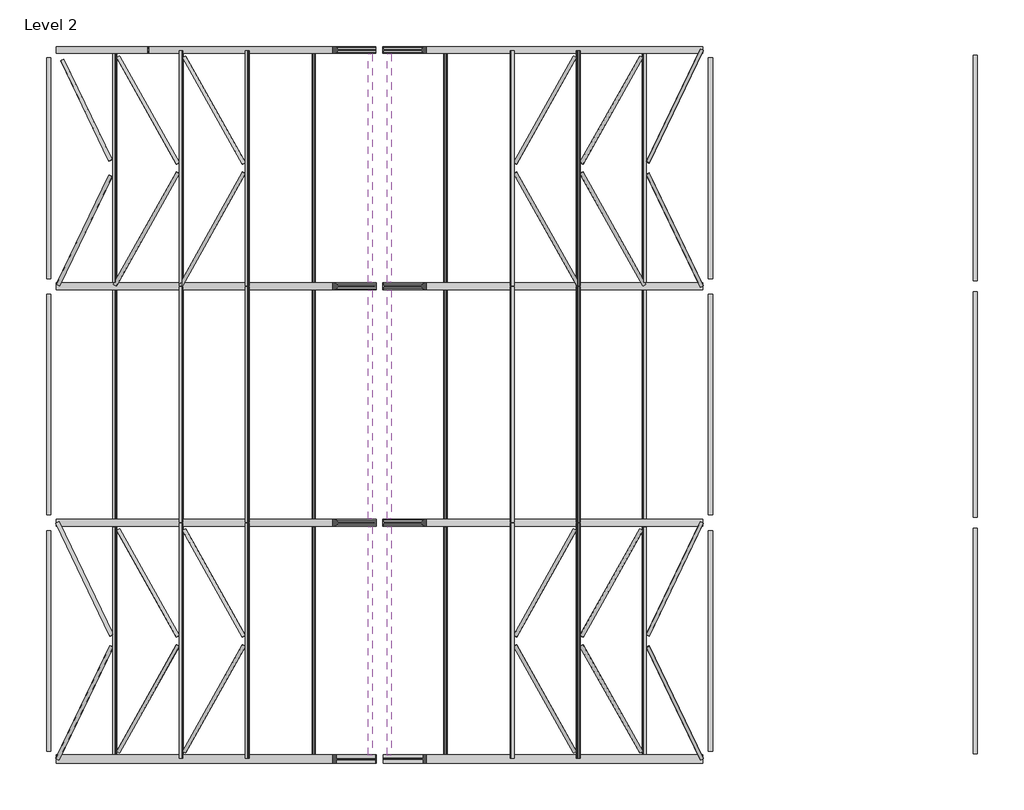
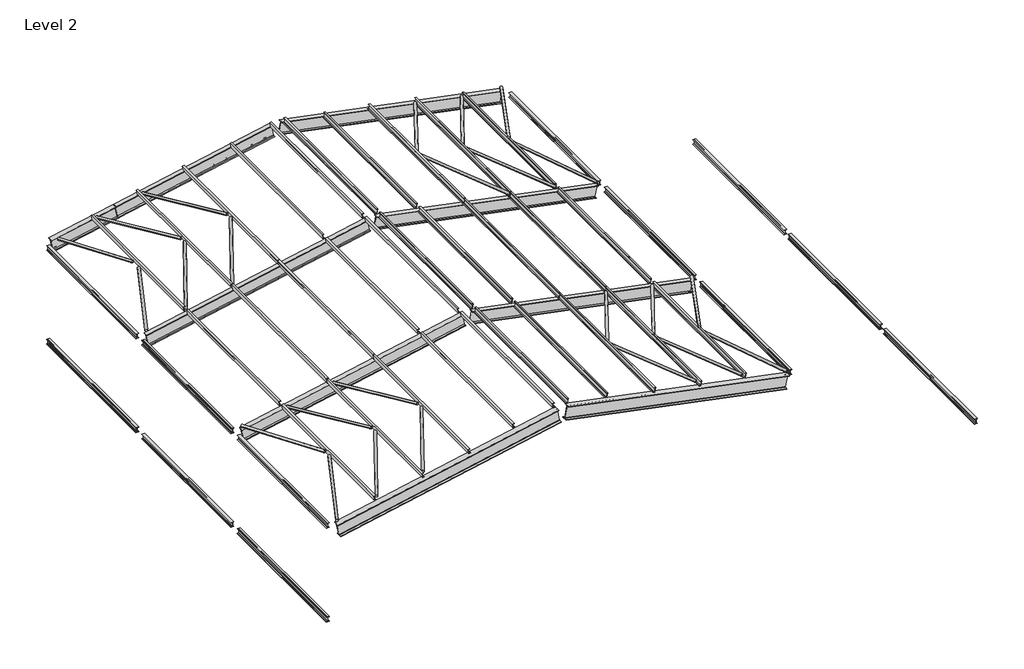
# One storey: 51 beams, 24 members.
"""IFC4 building model written with IfcOpenShell, lengths in millimetres."""

from ifc_helpers import new_model, si_unit, origin, place, context, project, spatial, transform, mapped, element, save
from components import c_channel_c6x13_b2b36362, c_channel_c6x13_1b19ddb2, c_channel_c6x13_4940aca9, c_channel_c6x13_5322debb, c_channel_c6x13_f7c1ed2d, c_channel_c6x13_ee0d21b7, c_channel_c6x13_c897e373, c_channel_c6x13_45790efd, c_channel_c6x13_01a53013, c_channel_c6x13_61d3db65, c_channel_c6x13_cbce994e, c_channel_c6x13_c106f19a, c_channel_c6x13_0d7380c4, c_channel_c6x13_3f903bd1, c_channel_c6x13_e813588d, c_channel_c6x13_805d20f2, c_channel_c6x13_115fb7c3, c_channel_c6x13_e31282b3, c_channel_c6x13_2b48402f, c_channel_c6x13_7d914799, s_shapes_s6x17_25_a5c0bde4, s_shapes_s6x17_25_87abacaf, s_american_standard_s15x50_c199a0a1, s_american_standard_s15x50_5fe9eba2, s_american_standard_s15x50_5335cbeb, w_shapes_w16x50_7702e007, hss_round_hss3x_250_05f57986, hss_round_hss3x_250_fa23e0ce, hss_round_hss3x_250_f9a469b0, hss_round_hss3x_250_3620c812, hss_round_hss3x_250_1ae0081d, hss_round_hss3x_250_a893225f, hss_round_hss3x_250_b1a33e7d, hss_round_hss3x_250_d19ba9f0, hss_round_hss3x_250_69b59b5c, hss_round_hss3x_250_7c8beab8, hss_round_hss3x_250_0a7b9d6e, hss_round_hss3x_250_61c3d1cc, hss_round_hss3x_250_120c92ce, hss_round_hss3x_250_aa3f84e9, hss_round_hss3x_250_4fada55d, hss_round_hss3x_250_6881349c, hss_round_hss3x_250_1bf88428, hss_round_hss3x_250_9fa1828e

model = new_model("IFC4")

# Units and contexts
model_context = context("Model", 3, world=origin())
ifc_project = project(units=[si_unit("LENGTHUNIT", "METRE", prefix="MILLI")], contexts=[model_context])

# Site, building, storey
site = spatial("IfcSite", under=ifc_project)
building = spatial("IfcBuilding", under=site)
storey = spatial("IfcBuildingStorey", under=building, Name="Level 2", Elevation=3000.0)

# Beams
placement = place(None, origin())
c_channel_c6x13_shape = c_channel_c6x13_b2b36362(model_context)
element("IfcBeam", 1, ObjectType="C-Channel : C6X13", at=placement, inside=storey, context=model_context, shape_type="MappedRepresentation", body=[
    mapped(c_channel_c6x13_shape, transform((-18696.7534386, 1156.2686326, 3352.0125928), x_axis=(0.0, 0.9999994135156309, 0.001083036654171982), y_axis=(-0.9805804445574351, 0.0002124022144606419, -0.19611717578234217), z_axis=(-0.19611729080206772, -0.00106200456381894, 0.9805798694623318))),
])
c_channel_c6x13_2_shape = c_channel_c6x13_1b19ddb2(model_context)
element("IfcBeam", 2, ObjectType="C-Channel : C6X13", at=placement, inside=storey, context=model_context, shape_type="MappedRepresentation", body=[
    mapped(c_channel_c6x13_2_shape, transform((-17296.7534347, 1156.4157159, 3636.9337446), x_axis=(0.0, 0.999999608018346, -0.0008854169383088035), y_axis=(-0.980580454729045, -0.00017364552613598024, -0.19611716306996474), z_axis=(-0.1961172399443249, 0.0008682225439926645, 0.9805800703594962))),
])
c_channel_c6x13_3_shape = c_channel_c6x13_4940aca9(model_context)
element("IfcBeam", 3, ObjectType="C-Channel : C6X13", at=placement, inside=storey, context=model_context, shape_type="MappedRepresentation", body=[
    mapped(c_channel_c6x13_3_shape, transform((-15896.7534368, 1156.3815919, 3915.7920398), x_axis=(0.0, 0.9999999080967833, -0.00042872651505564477), y_axis=(-0.9805804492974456, -8.408067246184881e-05, -0.19611724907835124), z_axis=(-0.1961172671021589, 0.00042040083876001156, 0.9805803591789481))),
])
c_channel_c6x13_4_shape = c_channel_c6x13_5322debb(model_context)
element("IfcBeam", 4, ObjectType="C-Channel : C6X13", at=placement, inside=storey, context=model_context, shape_type="MappedRepresentation", body=[
    mapped(c_channel_c6x13_4_shape, transform((-14496.7534386, 1156.2696281, 4192.0459018), x_axis=(0.0, 0.9999994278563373, 0.0010697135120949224), y_axis=(-0.9805804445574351, 0.00020978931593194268, -0.19611717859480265), z_axis=(-0.19611729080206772, -0.00104894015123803, 0.9805798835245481))),
])
c_channel_c6x13_5_shape = c_channel_c6x13_f7c1ed2d(model_context)
element("IfcBeam", 5, ObjectType="C-Channel : C6X13", at=placement, inside=storey, context=model_context, shape_type="MappedRepresentation", body=[
    mapped(c_channel_c6x13_5_shape, transform((-13296.7534362, 1156.3069058, 4433.2931752), x_axis=(0.0, 0.9999998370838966, 0.0005708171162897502), y_axis=(-0.9805804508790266, 0.00011194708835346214, -0.19611722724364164), z_axis=(-0.1961172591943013, -0.0005597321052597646, 0.9805802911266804))),
])
c_channel_c6x13_6_shape = c_channel_c6x13_ee0d21b7(model_context)
element("IfcBeam", 6, ObjectType="C-Channel : C6X13", at=placement, inside=storey, context=model_context, shape_type="MappedRepresentation", body=[
    mapped(c_channel_c6x13_6_shape, transform((-7466.8651635, 1156.2686326, 3352.0125928), x_axis=(0.0, 0.9999994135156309, 0.001083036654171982), y_axis=(-0.9805804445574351, -0.0002124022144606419, 0.19611717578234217), z_axis=(0.19611729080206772, -0.00106200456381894, 0.9805798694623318))),
])
c_channel_c6x13_7_shape = c_channel_c6x13_c897e373(model_context)
element("IfcBeam", 7, ObjectType="C-Channel : C6X13", at=placement, inside=storey, context=model_context, shape_type="MappedRepresentation", body=[
    mapped(c_channel_c6x13_7_shape, transform((-8866.8651673, 1156.4157159, 3636.9337446), x_axis=(0.0, 0.999999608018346, -0.0008854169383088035), y_axis=(-0.980580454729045, 0.00017364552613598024, 0.19611716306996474), z_axis=(0.1961172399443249, 0.0008682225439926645, 0.9805800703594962))),
])
c_channel_c6x13_8_shape = c_channel_c6x13_45790efd(model_context)
element("IfcBeam", 8, ObjectType="C-Channel : C6X13", at=placement, inside=storey, context=model_context, shape_type="MappedRepresentation", body=[
    mapped(c_channel_c6x13_8_shape, transform((-10266.8651635, 1156.3815919, 3915.7920394), x_axis=(0.0, 0.9999999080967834, -0.0004287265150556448), y_axis=(-0.9805804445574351, 8.408068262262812e-05, 0.19611727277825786), z_axis=(0.19611729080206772, 0.0004204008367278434, 0.9805803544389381))),
])
c_channel_c6x13_9_shape = c_channel_c6x13_01a53013(model_context)
element("IfcBeam", 9, ObjectType="C-Channel : C6X13", at=placement, inside=storey, context=model_context, shape_type="MappedRepresentation", body=[
    mapped(c_channel_c6x13_9_shape, transform((-11666.8651635, 1156.2696281, 4192.0459018), x_axis=(0.0, 0.9999994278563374, 0.0010697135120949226), y_axis=(-0.9805804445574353, -0.0002097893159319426, 0.19611717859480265), z_axis=(0.19611729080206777, -0.0010489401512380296, 0.9805798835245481))),
])
c_channel_c6x13_10_shape = c_channel_c6x13_61d3db65(model_context)
element("IfcBeam", 10, ObjectType="C-Channel : C6X13", at=placement, inside=storey, context=model_context, shape_type="MappedRepresentation", body=[
    mapped(c_channel_c6x13_10_shape, transform((-12866.8651635, 1156.3069058, 4433.2931747), x_axis=(0.0, 0.9999998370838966, 0.0005708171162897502), y_axis=(-0.9805804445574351, -0.0001119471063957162, 0.19611725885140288), z_axis=(0.19611729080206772, -0.000559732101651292, 0.98058028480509))),
])
c_channel_c6x13_11_shape = c_channel_c6x13_cbce994e(model_context)
element("IfcBeam", 11, ObjectType="C-Channel : C6X13", at=placement, inside=storey, context=model_context, shape_type="MappedRepresentation", body=[
    mapped(c_channel_c6x13_11_shape, transform((-18696.7534386, 6156.2686326, 3352.0125928), x_axis=(0.0, 0.9999994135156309, 0.001083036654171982), y_axis=(-0.9805804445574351, 0.0002124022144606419, -0.19611717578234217), z_axis=(-0.19611729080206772, -0.00106200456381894, 0.9805798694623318))),
])
c_channel_c6x13_12_shape = c_channel_c6x13_c106f19a(model_context)
element("IfcBeam", 12, ObjectType="C-Channel : C6X13", at=placement, inside=storey, context=model_context, shape_type="MappedRepresentation", body=[
    mapped(c_channel_c6x13_12_shape, transform((-17296.7534271, 6156.4157159, 3636.9337461), x_axis=(0.0, 0.9999996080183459, -0.0008854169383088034), y_axis=(-0.980580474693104, -0.00017364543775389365, -0.19611706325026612), z_axis=(-0.19611714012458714, 0.0008682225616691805, 0.9805800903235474))),
])
element("IfcBeam", 13, ObjectType="C-Channel : C6X13", at=placement, inside=storey, context=model_context, shape_type="MappedRepresentation", body=[
    mapped(c_channel_c6x13_3_shape, transform((-15896.7534368, 6156.3815919, 3915.7920398), x_axis=(0.0, 0.9999999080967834, -0.0004287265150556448), y_axis=(-0.9805804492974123, -8.408067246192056e-05, -0.19611724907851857), z_axis=(-0.19611726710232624, 0.0004204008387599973, 0.9805803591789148))),
])
c_channel_c6x13_13_shape = c_channel_c6x13_0d7380c4(model_context)
element("IfcBeam", 14, ObjectType="C-Channel : C6X13", at=placement, inside=storey, context=model_context, shape_type="MappedRepresentation", body=[
    mapped(c_channel_c6x13_13_shape, transform((-14496.7534386, 6156.2696281, 4192.0459018), x_axis=(0.0, 0.9999994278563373, 0.0010697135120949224), y_axis=(-0.9805804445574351, 0.00020978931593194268, -0.19611717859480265), z_axis=(-0.19611729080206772, -0.00104894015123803, 0.9805798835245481))),
])
element("IfcBeam", 15, ObjectType="C-Channel : C6X13", at=placement, inside=storey, context=model_context, shape_type="MappedRepresentation", body=[
    mapped(c_channel_c6x13_13_shape, transform((-14496.7534386, 11156.2696281, 4192.0459018), x_axis=(0.0, 0.9999994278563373, 0.0010697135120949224), y_axis=(-0.9805804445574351, 0.00020978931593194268, -0.19611717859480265), z_axis=(-0.19611729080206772, -0.00104894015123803, 0.9805798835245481))),
])
element("IfcBeam", 16, ObjectType="C-Channel : C6X13", at=placement, inside=storey, context=model_context, shape_type="MappedRepresentation", body=[
    mapped(c_channel_c6x13_5_shape, transform((-13296.7534338, 6156.3069058, 4433.2931756), x_axis=(0.0, 0.9999998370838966, 0.0005708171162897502), y_axis=(-0.9805804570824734, 0.00011194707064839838, -0.19611719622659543), z_axis=(-0.19611722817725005, -0.0005597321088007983, 0.9805802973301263))),
])
element("IfcBeam", 17, ObjectType="C-Channel : C6X13", at=placement, inside=storey, context=model_context, shape_type="MappedRepresentation", body=[
    mapped(c_channel_c6x13_5_shape, transform((-13296.7534362, 11156.3069058, 4433.2931752), x_axis=(0.0, 0.9999998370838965, 0.0005708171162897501), y_axis=(-0.9805804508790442, 0.0001119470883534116, -0.1961172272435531), z_axis=(-0.19611725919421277, -0.0005597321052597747, 0.9805802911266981))),
])
c_channel_c6x13_14_shape = c_channel_c6x13_3f903bd1(model_context)
element("IfcBeam", 18, ObjectType="C-Channel : C6X13", at=placement, inside=storey, context=model_context, shape_type="MappedRepresentation", body=[
    mapped(c_channel_c6x13_14_shape, transform((-7466.8651635, 6156.2686326, 3352.0125928), x_axis=(0.0, 0.9999994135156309, 0.001083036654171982), y_axis=(-0.9805804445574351, -0.0002124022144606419, 0.19611717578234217), z_axis=(0.19611729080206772, -0.00106200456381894, 0.9805798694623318))),
])
element("IfcBeam", 19, ObjectType="C-Channel : C6X13", at=placement, inside=storey, context=model_context, shape_type="MappedRepresentation", body=[
    mapped(c_channel_c6x13_14_shape, transform((-7466.8651635, 11156.2686326, 3352.0125928), x_axis=(0.0, 0.9999994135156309, 0.001083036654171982), y_axis=(-0.9805804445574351, -0.0002124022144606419, 0.19611717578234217), z_axis=(0.19611729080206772, -0.00106200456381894, 0.9805798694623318))),
])
c_channel_c6x13_15_shape = c_channel_c6x13_e813588d(model_context)
element("IfcBeam", 20, ObjectType="C-Channel : C6X13", at=placement, inside=storey, context=model_context, shape_type="MappedRepresentation", body=[
    mapped(c_channel_c6x13_15_shape, transform((-8866.8651749, 6156.4157159, 3636.9337461), x_axis=(0.0, 0.9999996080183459, -0.0008854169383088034), y_axis=(-0.980580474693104, 0.00017364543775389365, 0.19611706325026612), z_axis=(0.19611714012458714, 0.0008682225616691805, 0.9805800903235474))),
])
c_channel_c6x13_16_shape = c_channel_c6x13_805d20f2(model_context)
element("IfcBeam", 21, ObjectType="C-Channel : C6X13", at=placement, inside=storey, context=model_context, shape_type="MappedRepresentation", body=[
    mapped(c_channel_c6x13_16_shape, transform((-10266.8651662, 6156.3815919, 3915.7920399), x_axis=(0.0, 0.9999999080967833, -0.00042872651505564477), y_axis=(-0.9805804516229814, 8.40806674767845e-05, 0.19611723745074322), z_axis=(0.19611725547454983, 0.0004204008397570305, 0.9805803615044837))),
])
c_channel_c6x13_17_shape = c_channel_c6x13_115fb7c3(model_context)
element("IfcBeam", 22, ObjectType="C-Channel : C6X13", at=placement, inside=storey, context=model_context, shape_type="MappedRepresentation", body=[
    mapped(c_channel_c6x13_17_shape, transform((-11666.8651635, 6156.2696281, 4192.0459018), x_axis=(0.0, 0.9999994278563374, 0.0010697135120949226), y_axis=(-0.9805804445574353, -0.0002097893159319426, 0.19611717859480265), z_axis=(0.19611729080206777, -0.0010489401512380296, 0.9805798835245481))),
])
element("IfcBeam", 23, ObjectType="C-Channel : C6X13", at=placement, inside=storey, context=model_context, shape_type="MappedRepresentation", body=[
    mapped(c_channel_c6x13_17_shape, transform((-11666.8651635, 11156.2696281, 4192.0459018), x_axis=(0.0, 0.9999994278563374, 0.0010697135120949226), y_axis=(-0.9805804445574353, -0.00020978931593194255, 0.19611717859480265), z_axis=(0.19611729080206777, -0.0010489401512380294, 0.9805798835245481))),
])
element("IfcBeam", 24, ObjectType="C-Channel : C6X13", at=placement, inside=storey, context=model_context, shape_type="MappedRepresentation", body=[
    mapped(c_channel_c6x13_10_shape, transform((-12866.8651682, 6156.3069058, 4433.2931756), x_axis=(0.0, 0.9999998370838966, 0.0005708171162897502), y_axis=(-0.9805804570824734, -0.00011194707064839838, 0.19611719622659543), z_axis=(0.19611722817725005, -0.0005597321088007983, 0.9805802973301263))),
])
element("IfcBeam", 25, ObjectType="C-Channel : C6X13", at=placement, inside=storey, context=model_context, shape_type="MappedRepresentation", body=[
    mapped(c_channel_c6x13_10_shape, transform((-12866.8651659, 11156.3069058, 4433.2931752), x_axis=(0.0, 0.9999998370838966, 0.0005708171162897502), y_axis=(-0.9805804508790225, -0.00011194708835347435, 0.19611722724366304), z_axis=(0.1961172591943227, -0.0005597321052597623, 0.9805802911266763))),
])
element("IfcBeam", 26, ObjectType="C-Channel : C6X13", at=placement, inside=storey, context=model_context, shape_type="MappedRepresentation", body=[
    mapped(c_channel_c6x13_11_shape, transform((-18696.7534386, 11156.2686326, 3352.0125928), x_axis=(0.0, 0.9999994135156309, 0.001083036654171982), y_axis=(-0.9805804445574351, 0.0002124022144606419, -0.19611717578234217), z_axis=(-0.19611729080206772, -0.00106200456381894, 0.9805798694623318))),
])
c_channel_c6x13_18_shape = c_channel_c6x13_e31282b3(model_context)
element("IfcBeam", 27, ObjectType="C-Channel : C6X13", at=placement, inside=storey, context=model_context, shape_type="MappedRepresentation", body=[
    mapped(c_channel_c6x13_18_shape, transform((-17296.7534309, 11156.4157159, 3636.9337453), x_axis=(0.0, 0.999999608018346, -0.0008854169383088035), y_axis=(-0.9805804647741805, -0.00017364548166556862, -0.19611711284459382), z_axis=(-0.1961171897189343, 0.0008682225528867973, 0.9805800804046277))),
])
element("IfcBeam", 28, ObjectType="C-Channel : C6X13", at=placement, inside=storey, context=model_context, shape_type="MappedRepresentation", body=[
    mapped(c_channel_c6x13_3_shape, transform((-15896.7534368, 11156.3815919, 3915.7920398), x_axis=(0.0, 0.9999999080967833, -0.00042872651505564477), y_axis=(-0.9805804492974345, -8.408067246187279e-05, -0.19611724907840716), z_axis=(-0.19611726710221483, 0.00042040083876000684, 0.980580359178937))),
])
c_channel_c6x13_19_shape = c_channel_c6x13_2b48402f(model_context)
element("IfcBeam", 29, ObjectType="C-Channel : C6X13", at=placement, inside=storey, context=model_context, shape_type="MappedRepresentation", body=[
    mapped(c_channel_c6x13_19_shape, transform((-8866.8651712, 11156.4157159, 3636.9337453), x_axis=(0.0, 0.999999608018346, -0.0008854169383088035), y_axis=(-0.9805804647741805, 0.00017364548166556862, 0.19611711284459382), z_axis=(0.1961171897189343, 0.0008682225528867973, 0.9805800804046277))),
])
c_channel_c6x13_20_shape = c_channel_c6x13_7d914799(model_context)
element("IfcBeam", 30, ObjectType="C-Channel : C6X13", at=placement, inside=storey, context=model_context, shape_type="MappedRepresentation", body=[
    mapped(c_channel_c6x13_20_shape, transform((-10266.8651653, 11156.3815919, 3915.7920398), x_axis=(0.0, 0.9999999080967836, -0.00042872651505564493), y_axis=(-0.9805804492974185, 8.408067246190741e-05, 0.1961172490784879), z_axis=(0.19611726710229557, 0.00042040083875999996, 0.9805803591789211))),
])
s_shapes_s6x17_25_shape = s_shapes_s6x17_25_a5c0bde4(model_context)
element("IfcBeam", 31, ObjectType="S Shapes : S6X17.25", at=placement, inside=storey, context=model_context, shape_type="MappedRepresentation", body=[
    mapped(s_shapes_s6x17_25_shape, transform((-20081.809301, 1156.3495573, -76.2), x_axis=(0.0, 1.0, 0.0), y_axis=(-1.0, 0.0, 0.0), z_axis=(0.0, 0.0, 1.0))),
])
element("IfcBeam", 32, ObjectType="S Shapes : S6X17.25", at=placement, inside=storey, context=model_context, shape_type="MappedRepresentation", body=[
    mapped(s_shapes_s6x17_25_shape, transform((-20081.809301, 6156.3495573, -76.2), x_axis=(0.0, 1.0, 0.0), y_axis=(-1.0, 0.0, 0.0), z_axis=(0.0, 0.0, 1.0))),
])
element("IfcBeam", 33, ObjectType="S Shapes : S6X17.25", at=placement, inside=storey, context=model_context, shape_type="MappedRepresentation", body=[
    mapped(s_shapes_s6x17_25_shape, transform((-20081.809301, 1156.3495573, 2923.8), x_axis=(0.0, 1.0, 0.0), y_axis=(-1.0, 0.0, 0.0), z_axis=(0.0, 0.0, 1.0))),
])
element("IfcBeam", 34, ObjectType="S Shapes : S6X17.25", at=placement, inside=storey, context=model_context, shape_type="MappedRepresentation", body=[
    mapped(s_shapes_s6x17_25_shape, transform((-20081.809301, 11156.3495573, -76.2), x_axis=(0.0, 1.0, 0.0), y_axis=(-1.0, 0.0, 0.0), z_axis=(0.0, 0.0, 1.0))),
])
element("IfcBeam", 35, ObjectType="S Shapes : S6X17.25", at=placement, inside=storey, context=model_context, shape_type="MappedRepresentation", body=[
    mapped(s_shapes_s6x17_25_shape, transform((-20081.809301, 6156.3495573, 2923.8), x_axis=(0.0, 1.0, 0.0), y_axis=(-1.0, 0.0, 0.0), z_axis=(0.0, 0.0, 1.0))),
])
element("IfcBeam", 36, ObjectType="S Shapes : S6X17.25", at=placement, inside=storey, context=model_context, shape_type="MappedRepresentation", body=[
    mapped(s_shapes_s6x17_25_shape, transform((-20081.809301, 11156.3495573, 2923.8), x_axis=(0.0, 1.0, 0.0), y_axis=(-1.0, 0.0, 0.0), z_axis=(0.0, 0.0, 1.0))),
])
element("IfcBeam", 37, ObjectType="S Shapes : S6X17.25", at=placement, inside=storey, context=model_context, shape_type="MappedRepresentation", body=[
    mapped(s_shapes_s6x17_25_shape, transform((-6081.8226953, 1156.3495573, 2923.8), x_axis=(0.0, 1.0, 0.0), y_axis=(-1.0, 0.0, 0.0), z_axis=(0.0, 0.0, 1.0))),
])
element("IfcBeam", 38, ObjectType="S Shapes : S6X17.25", at=placement, inside=storey, context=model_context, shape_type="MappedRepresentation", body=[
    mapped(s_shapes_s6x17_25_shape, transform((-6081.8226953, 6156.3495573, 2923.8), x_axis=(0.0, 1.0, 0.0), y_axis=(-1.0, 0.0, 0.0), z_axis=(0.0, 0.0, 1.0))),
])
element("IfcBeam", 39, ObjectType="S Shapes : S6X17.25", at=placement, inside=storey, context=model_context, shape_type="MappedRepresentation", body=[
    mapped(s_shapes_s6x17_25_shape, transform((-6081.8226953, 11156.3495573, 2923.8), x_axis=(0.0, 1.0, 0.0), y_axis=(-1.0, 0.0, 0.0), z_axis=(0.0, 0.0, 1.0))),
])
s_shapes_s6x17_25_2_shape = s_shapes_s6x17_25_87abacaf(model_context)
element("IfcBeam", 40, ObjectType="S Shapes : S6X17.25", at=placement, inside=storey, context=model_context, shape_type="MappedRepresentation", body=[
    mapped(s_shapes_s6x17_25_2_shape, transform((-481.809301, 1156.3495573, -576.2), x_axis=(0.0, 1.0, 0.0), y_axis=(-1.0, 0.0, 0.0), z_axis=(0.0, 0.0, 1.0))),
])
element("IfcBeam", 41, ObjectType="S Shapes : S6X17.25", at=placement, inside=storey, context=model_context, shape_type="MappedRepresentation", body=[
    mapped(s_shapes_s6x17_25_2_shape, transform((-481.809301, 6156.3495573, -576.2), x_axis=(0.0, 1.0, 0.0), y_axis=(-1.0, 0.0, 0.0), z_axis=(0.0, 0.0, 1.0))),
])
element("IfcBeam", 42, ObjectType="S Shapes : S6X17.25", at=placement, inside=storey, context=model_context, shape_type="MappedRepresentation", body=[
    mapped(s_shapes_s6x17_25_2_shape, transform((-481.809301, 11156.3495573, -576.2), x_axis=(0.0, 1.0, 0.0), y_axis=(-1.0, 0.0, 0.0), z_axis=(0.0, 0.0, 1.0))),
])
s_american_standard_s15x50_shape = s_american_standard_s15x50_c199a0a1(model_context)
element("IfcBeam", 43, ObjectType="S-American Standard : S15X50", at=placement, inside=storey, context=model_context, shape_type="MappedRepresentation", body=[
    mapped(s_american_standard_s15x50_shape, transform((-16544.4491773, 3656.3495573, 3513.1993813), x_axis=(0.9805806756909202, 0.0, 0.19611613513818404), y_axis=(0.0, 1.0000000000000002, 0.0), z_axis=(-0.196116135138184, 0.0, 0.9805806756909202))),
])
element("IfcBeam", 44, ObjectType="S-American Standard : S15X50", at=placement, inside=storey, context=model_context, shape_type="MappedRepresentation", body=[
    mapped(s_american_standard_s15x50_shape, transform((-9619.1694248, 3656.3495573, 3513.1993813), x_axis=(-0.9805806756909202, 0.0, 0.19611613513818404), y_axis=(0.0, -1.0000000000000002, 0.0), z_axis=(0.19611613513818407, 0.0, 0.9805806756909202))),
])
element("IfcBeam", 45, ObjectType="S-American Standard : S15X50", at=placement, inside=storey, context=model_context, shape_type="MappedRepresentation", body=[
    mapped(s_american_standard_s15x50_shape, transform((-16544.4491773, 8656.3495573, 3513.1993813), x_axis=(0.9805806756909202, 0.0, 0.19611613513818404), y_axis=(0.0, 1.0000000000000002, 0.0), z_axis=(-0.196116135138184, 0.0, 0.9805806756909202))),
])
element("IfcBeam", 46, ObjectType="S-American Standard : S15X50", at=placement, inside=storey, context=model_context, shape_type="MappedRepresentation", body=[
    mapped(s_american_standard_s15x50_shape, transform((-9619.1694248, 8656.3495573, 3513.1993813), x_axis=(-0.9805806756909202, 0.0, 0.19611613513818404), y_axis=(0.0, -1.0000000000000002, 0.0), z_axis=(0.19611613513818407, 0.0, 0.9805806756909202))),
])
element("IfcBeam", 47, ObjectType="S-American Standard : S15X50", at=placement, inside=storey, context=model_context, shape_type="MappedRepresentation", body=[
    mapped(s_american_standard_s15x50_shape, transform((-9619.1694248, 13656.3495573, 3513.1993813), x_axis=(-0.9805806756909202, 0.0, 0.19611613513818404), y_axis=(0.0, -1.0000000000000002, 0.0), z_axis=(0.19611613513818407, 0.0, 0.9805806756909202))),
])
s_american_standard_s15x50_2_shape = s_american_standard_s15x50_5fe9eba2(model_context)
element("IfcBeam", 48, ObjectType="S-American Standard : S15X50", at=placement, inside=storey, context=model_context, shape_type="MappedRepresentation", body=[
    mapped(s_american_standard_s15x50_2_shape, transform((-18989.3194128, 13656.3495573, 3024.2253342), x_axis=(0.9805806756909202, 0.0, 0.19611613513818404), y_axis=(0.0, 1.0, 0.0), z_axis=(-0.1961161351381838, 0.0, 0.9805806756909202))),
])
s_american_standard_s15x50_3_shape = s_american_standard_s15x50_5335cbeb(model_context)
element("IfcBeam", 49, ObjectType="S-American Standard : S15X50", at=placement, inside=storey, context=model_context, shape_type="MappedRepresentation", body=[
    mapped(s_american_standard_s15x50_3_shape, transform((-15489.3194128, 13656.3495573, 3724.2253342), x_axis=(0.9805806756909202, 0.0, 0.19611613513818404), y_axis=(0.0, 1.0000000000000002, 0.0), z_axis=(-0.19611613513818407, 0.0, 0.9805806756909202))),
])
w_shapes_w16x50_shape = w_shapes_w16x50_7702e007(model_context)
element("IfcBeam", 50, ObjectType="W Shapes : W16X50", at=placement, inside=storey, context=model_context, shape_type="MappedRepresentation", body=[
    mapped(w_shapes_w16x50_shape, transform((-9622.4073022, -1343.6504427, 3497.0099943), x_axis=(-0.9805806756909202, 0.0, 0.19611613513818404), y_axis=(0.0, -1.0000000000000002, 0.0), z_axis=(0.19611613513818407, 0.0, 0.9805806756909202))),
])
element("IfcBeam", 51, ObjectType="W Shapes : W16X50", at=placement, inside=storey, context=model_context, shape_type="MappedRepresentation", body=[
    mapped(w_shapes_w16x50_shape, transform((-16541.2112999, -1343.6504427, 3497.0099943), x_axis=(0.9805806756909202, 0.0, 0.19611613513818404), y_axis=(0.0, 1.0000000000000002, 0.0), z_axis=(-0.196116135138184, 0.0, 0.9805806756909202))),
])

# Members
hss_round_hss3x_250_shape = hss_round_hss3x_250_05f57986(model_context)
element("IfcMember", 52, ObjectType="HSS Round : HSS3X.250", at=placement, inside=storey, context=model_context, shape_type="MappedRepresentation", body=[
    mapped(hss_round_hss3x_250_shape, transform((-8166.8651654, -93.6578257, 3493.1193721), x_axis=(-0.4861384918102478, 0.8681555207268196, 0.09987671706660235), y_axis=(-0.8725180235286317, -0.48858192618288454, 5.011253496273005e-06), z_axis=(0.0488023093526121, -0.08714179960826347, 0.9949998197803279))),
])
element("IfcMember", 53, ObjectType="HSS Round : HSS3X.250", at=placement, inside=storey, context=model_context, shape_type="MappedRepresentation", body=[
    mapped(hss_round_hss3x_250_shape, transform((-17996.7534366, -93.6578257, 3493.1193721), x_axis=(0.4861384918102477, 0.8681555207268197, 0.09987671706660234), y_axis=(-0.8725180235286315, 0.48858192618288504, -5.011253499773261e-06), z_axis=(-0.04880230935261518, -0.08714179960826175, 0.994999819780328))),
])
hss_round_hss3x_250_2_shape = hss_round_hss3x_250_fa23e0ce(model_context)
element("IfcMember", 54, ObjectType="HSS Round : HSS3X.250", at=placement, inside=storey, context=model_context, shape_type="MappedRepresentation", body=[
    mapped(hss_round_hss3x_250_2_shape, transform((-8166.8651654, 2406.3421743, 3495.8269653), x_axis=(-0.4862720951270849, -0.8682919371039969, 0.09802326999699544), y_axis=(0.8724935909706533, -0.48862555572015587, -3.5076213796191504e-06), z_axis=(0.04789972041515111, 0.08552296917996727, 0.9951841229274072))),
])
element("IfcMember", 55, ObjectType="HSS Round : HSS3X.250", at=placement, inside=storey, context=model_context, shape_type="MappedRepresentation", body=[
    mapped(hss_round_hss3x_250_2_shape, transform((-17996.7534366, 2406.3421743, 3495.8269653), x_axis=(0.4862720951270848, -0.8682919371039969, 0.09802326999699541), y_axis=(0.8724935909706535, 0.4886255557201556, 3.5076213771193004e-06), z_axis=(-0.0478997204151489, 0.08552296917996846, 0.9951841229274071))),
])
hss_round_hss3x_250_3_shape = hss_round_hss3x_250_f9a469b0(model_context)
element("IfcMember", 56, ObjectType="HSS Round : HSS3X.250", at=placement, inside=storey, context=model_context, shape_type="MappedRepresentation", body=[
    mapped(hss_round_hss3x_250_3_shape, transform((-9566.8651654, -93.6013461, 3777.4696636), x_axis=(-0.48634683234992, 0.8684646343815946, 0.09610378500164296), y_axis=(-0.8725031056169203, -0.48860856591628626, 1.4351354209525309e-06), z_axis=(0.04695837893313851, -0.08385015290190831, 0.9953713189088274))),
])
hss_round_hss3x_250_4_shape = hss_round_hss3x_250_3620c812(model_context)
element("IfcMember", 57, ObjectType="HSS Round : HSS3X.250", at=placement, inside=storey, context=model_context, shape_type="MappedRepresentation", body=[
    mapped(hss_round_hss3x_250_4_shape, transform((-9566.8651654, 2406.3986539, 3775.2561204), x_axis=(-0.48626438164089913, -0.8683411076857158, 0.09762515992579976), y_axis=(0.8725091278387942, -0.4885978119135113, 5.596044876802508e-06), z_axis=(0.04769458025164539, 0.08518156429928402, 0.9952232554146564))),
])
hss_round_hss3x_250_5_shape = hss_round_hss3x_250_1ae0081d(model_context)
element("IfcMember", 58, ObjectType="HSS Round : HSS3X.250", at=placement, inside=storey, context=model_context, shape_type="MappedRepresentation", body=[
    mapped(hss_round_hss3x_250_5_shape, transform((-8166.8651673, 9906.3421743, 3495.8269657), x_axis=(-0.4862289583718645, 0.868317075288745, 0.09801457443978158), y_axis=(-0.8725186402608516, -0.4885808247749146, -7.721334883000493e-06), z_axis=(0.04788133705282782, -0.08552329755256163, 0.9951849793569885))),
])
hss_round_hss3x_250_6_shape = hss_round_hss3x_250_a893225f(model_context)
element("IfcMember", 59, ObjectType="HSS Round : HSS3X.250", at=placement, inside=storey, context=model_context, shape_type="MappedRepresentation", body=[
    mapped(hss_round_hss3x_250_6_shape, transform((-8166.8651673, 12406.3421743, 3495.8269657), x_axis=(-0.4862720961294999, -0.8682919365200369, 0.09802327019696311), y_axis=(0.8724941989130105, -0.48862447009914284, 9.136532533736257e-06), z_axis=(0.047888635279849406, 0.08552917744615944, 0.9951841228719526))),
])
hss_round_hss3x_250_7_shape = hss_round_hss3x_250_b1a33e7d(model_context)
element("IfcMember", 60, ObjectType="HSS Round : HSS3X.250", at=placement, inside=storey, context=model_context, shape_type="MappedRepresentation", body=[
    mapped(hss_round_hss3x_250_7_shape, transform((-9566.8651701, 9906.396694, 3775.2561231), x_axis=(-0.486273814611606, 0.8683356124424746, 0.0976270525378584), y_axis=(-0.8725041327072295, -0.48860673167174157, -1.3185753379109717e-05), z_axis=(0.04768978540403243, -0.08518641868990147, 0.9952230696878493))),
])
element("IfcMember", 61, ObjectType="HSS Round : HSS3X.250", at=placement, inside=storey, context=model_context, shape_type="MappedRepresentation", body=[
    mapped(hss_round_hss3x_250_7_shape, transform((-16596.7534319, 9906.396694, 3775.2561231), x_axis=(0.486273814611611, 0.8683356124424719, 0.09762705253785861), y_axis=(-0.8725041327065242, 0.4886067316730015, 1.3185738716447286e-05), z_axis=(-0.047689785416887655, -0.0851864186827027, 0.9952230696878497))),
])
hss_round_hss3x_250_8_shape = hss_round_hss3x_250_d19ba9f0(model_context)
element("IfcMember", 62, ObjectType="HSS Round : HSS3X.250", at=placement, inside=storey, context=model_context, shape_type="MappedRepresentation", body=[
    mapped(hss_round_hss3x_250_8_shape, transform((-9566.8651682, 12406.3986539, 3775.2561209), x_axis=(-0.4862643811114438, -0.868341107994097, 0.09762515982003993), y_axis=(0.8725090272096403, -0.4885979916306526, 3.4900223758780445e-06), z_axis=(0.047696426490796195, 0.08518053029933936, 0.9952232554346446))),
])
element("IfcMember", 63, ObjectType="HSS Round : HSS3X.250", at=placement, inside=storey, context=model_context, shape_type="MappedRepresentation", body=[
    mapped(hss_round_hss3x_250_8_shape, transform((-16596.7534338, 12406.3986539, 3775.2561209), x_axis=(0.4862643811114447, -0.8683411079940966, 0.09762515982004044), y_axis=(0.8725090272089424, 0.48859799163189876, -3.490007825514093e-06), z_axis=(-0.04769642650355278, 0.08518053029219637, 0.9952232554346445))),
])
hss_round_hss3x_250_9_shape = hss_round_hss3x_250_69b59b5c(model_context)
element("IfcMember", 64, ObjectType="HSS Round : HSS3X.250", at=placement, inside=storey, context=model_context, shape_type="MappedRepresentation", body=[
    mapped(hss_round_hss3x_250_9_shape, transform((-16596.7534357, -93.6013461, 3777.4696638), x_axis=(0.48634683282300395, 0.8684646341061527, 0.0961037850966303), y_axis=(-0.8725030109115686, 0.4886087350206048, -3.4368611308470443e-06), z_axis=(-0.04696013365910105, -0.08384917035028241, 0.9953713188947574))),
])
hss_round_hss3x_250_10_shape = hss_round_hss3x_250_7c8beab8(model_context)
element("IfcMember", 65, ObjectType="HSS Round : HSS3X.250", at=placement, inside=storey, context=model_context, shape_type="MappedRepresentation", body=[
    mapped(hss_round_hss3x_250_10_shape, transform((-16596.7534357, 2406.3986539, 3775.2561206), x_axis=(0.4862643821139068, -0.8683411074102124, 0.09762516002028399), y_axis=(0.8725090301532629, 0.48859798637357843, -3.563325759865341e-06), z_axis=(-0.047696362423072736, 0.08518056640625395, 0.9952232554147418))),
])
hss_round_hss3x_250_11_shape = hss_round_hss3x_250_0a7b9d6e(model_context)
element("IfcMember", 66, ObjectType="HSS Round : HSS3X.250", at=placement, inside=storey, context=model_context, shape_type="MappedRepresentation", body=[
    mapped(hss_round_hss3x_250_11_shape, transform((-19296.7534386, 12406.3496144, 3233.3663895), x_axis=(0.431132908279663, -0.8982517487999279, 0.08525380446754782), y_axis=(0.9015339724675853, 0.4327083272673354, 5.656675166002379e-07), z_axis=(-0.036890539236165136, 0.07685895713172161, 0.9963592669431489))),
])
hss_round_hss3x_250_12_shape = hss_round_hss3x_250_61c3d1cc(model_context)
element("IfcMember", 67, ObjectType="HSS Round : HSS3X.250", at=placement, inside=storey, context=model_context, shape_type="MappedRepresentation", body=[
    mapped(hss_round_hss3x_250_12_shape, transform((-17996.7534347, 9906.3392418, 3495.8269625), x_axis=(0.48622809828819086, 0.8683175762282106, 0.09801440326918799), y_axis=(-0.8725191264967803, 0.4885799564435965, 7.672584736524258e-06), z_axis=(-0.04788121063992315, -0.08552317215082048, 0.9951849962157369))),
])
element("IfcMember", 68, ObjectType="HSS Round : HSS3X.250", at=placement, inside=storey, context=model_context, shape_type="MappedRepresentation", body=[
    mapped(hss_round_hss3x_250_6_shape, transform((-17996.7534347, 12406.3421743, 3495.8269657), x_axis=(0.4862720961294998, -0.8682919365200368, 0.09802327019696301), y_axis=(0.8724941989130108, 0.48862447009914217, -9.136532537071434e-06), z_axis=(-0.0478886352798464, 0.085529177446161, 0.9951841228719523))),
])
hss_round_hss3x_250_13_shape = hss_round_hss3x_250_120c92ce(model_context)
element("IfcMember", 69, ObjectType="HSS Round : HSS3X.250", at=placement, inside=storey, context=model_context, shape_type="MappedRepresentation", body=[
    mapped(hss_round_hss3x_250_13_shape, transform((-19296.7534386, -93.6469204, 3236.3096754), x_axis=(0.4312557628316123, 0.8983888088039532, 0.08316258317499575), y_axis=(-0.9015116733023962, 0.43275478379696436, 5.970480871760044e-07), z_axis=(-0.03598846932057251, -0.07497229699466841, 0.9965359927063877))),
])
element("IfcMember", 70, ObjectType="HSS Round : HSS3X.250", at=placement, inside=storey, context=model_context, shape_type="MappedRepresentation", body=[
    mapped(hss_round_hss3x_250_13_shape, transform((-6866.8651635, -93.6469204, 3236.3096754), x_axis=(-0.4312557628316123, 0.8983888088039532, 0.08316258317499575), y_axis=(-0.9015116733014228, -0.4327547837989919, -5.970211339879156e-07), z_axis=(0.03598846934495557, -0.07497229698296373, 0.9965359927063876))),
])
hss_round_hss3x_250_14_shape = hss_round_hss3x_250_aa3f84e9(model_context)
element("IfcMember", 71, ObjectType="HSS Round : HSS3X.250", at=placement, inside=storey, context=model_context, shape_type="MappedRepresentation", body=[
    mapped(hss_round_hss3x_250_14_shape, transform((-19296.7534386, 2406.3530796, 3236.3096754), x_axis=(0.4312087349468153, -0.8984122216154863, 0.08315351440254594), y_axis=(0.9015344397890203, 0.4327073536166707, 5.962430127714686e-07), z_axis=(-0.035981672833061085, 0.07496549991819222, 0.9965367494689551))),
])
hss_round_hss3x_250_15_shape = hss_round_hss3x_250_4fada55d(model_context)
element("IfcMember", 72, ObjectType="HSS Round : HSS3X.250", at=placement, inside=storey, context=model_context, shape_type="MappedRepresentation", body=[
    mapped(hss_round_hss3x_250_15_shape, transform((-19296.7534386, 9906.3530796, 3236.3096754), x_axis=(0.4312557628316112, 0.8983888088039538, 0.08316258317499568), y_axis=(-0.9015116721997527, 0.43275478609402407, 5.66515411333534e-07), z_axis=(-0.03598849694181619, -0.07497228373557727, 0.9965359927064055))),
])
hss_round_hss3x_250_16_shape = hss_round_hss3x_250_6881349c(model_context)
element("IfcMember", 73, ObjectType="HSS Round : HSS3X.250", at=placement, inside=storey, context=model_context, shape_type="MappedRepresentation", body=[
    mapped(hss_round_hss3x_250_16_shape, transform((-6866.8651635, 2406.3565448, 3236.3096714), x_axis=(-0.43120777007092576, -0.8984127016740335, 0.083153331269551), y_axis=(0.9015349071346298, -0.43270637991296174, -6.11672089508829e-07), z_axis=(0.03598152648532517, 0.07496536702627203, 0.9965367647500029))),
])
hss_round_hss3x_250_17_shape = hss_round_hss3x_250_1bf88428(model_context)
element("IfcMember", 74, ObjectType="HSS Round : HSS3X.250", at=placement, inside=storey, context=model_context, shape_type="MappedRepresentation", body=[
    mapped(hss_round_hss3x_250_17_shape, transform((-6866.8651635, 9906.3565448, 3236.3096714), x_axis=(-0.4312567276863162, 0.8983883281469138, 0.08316277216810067), y_axis=(-0.9015112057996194, -0.4327557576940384, -6.124734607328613e-07), z_axis=(0.03598861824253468, -0.07497243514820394, 0.9965359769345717))),
])
hss_round_hss3x_250_18_shape = hss_round_hss3x_250_9fa1828e(model_context)
element("IfcMember", 75, ObjectType="HSS Round : HSS3X.250", at=placement, inside=storey, context=model_context, shape_type="MappedRepresentation", body=[
    mapped(hss_round_hss3x_250_18_shape, transform((-6866.8651635, 12406.3530796, 3233.3663855), x_axis=(-0.43113194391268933, -0.898252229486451, 0.08525361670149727), y_axis=(0.9015344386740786, -0.43270735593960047, -6.115651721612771e-07), z_axis=(0.036890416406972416, 0.07685880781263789, 0.996359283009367))),
])

save(model, "model.ifc")
